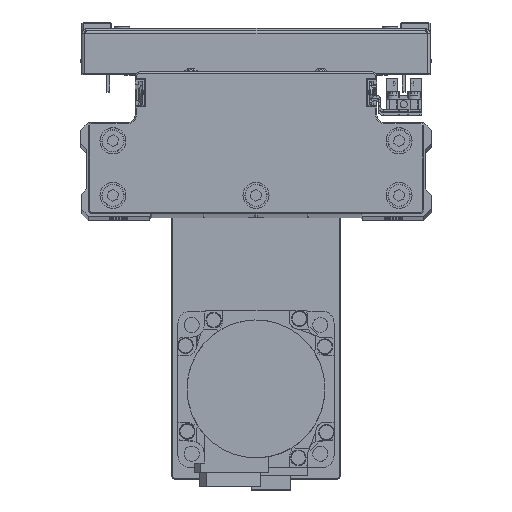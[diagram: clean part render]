
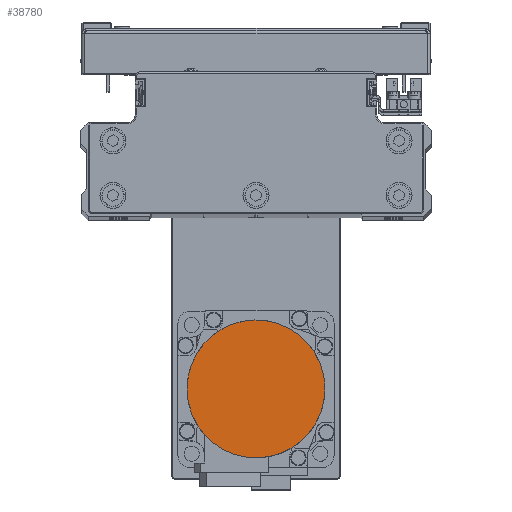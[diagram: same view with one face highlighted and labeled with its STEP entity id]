
A CAD part, top view. The second image highlights one B-rep face of the part: STEP entity #38780.
In plain terms, the highlighted planar face has unit normal (0, 0, 1) as drawn and (0, 0, -1) by its records, which use the part's own axes.
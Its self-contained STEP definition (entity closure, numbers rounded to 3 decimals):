
#378 = CARTESIAN_POINT ( 'NONE',  ( -23.819, -11.744, -109.7 ) ) ;
#614 = CARTESIAN_POINT ( 'NONE',  ( 3.469, -26.329, -109.7 ) ) ;
#822 = CARTESIAN_POINT ( 'NONE',  ( 26.329, -3.469, -109.7 ) ) ;
#1150 = CARTESIAN_POINT ( 'NONE',  ( 26.329, 3.469, -109.7 ) ) ;
#2787 = CARTESIAN_POINT ( 'NONE',  ( 3.469, 26.329, -109.7 ) ) ;
#2998 = CARTESIAN_POINT ( 'NONE',  ( -23.819, 11.744, -109.7 ) ) ;
#3731 = CARTESIAN_POINT ( 'NONE',  ( -26.329, -3.469, -109.7 ) ) ;
#3955 = CARTESIAN_POINT ( 'NONE',  ( -3.469, -26.329, -109.7 ) ) ;
#4185 = CARTESIAN_POINT ( 'NONE',  ( 23.819, -11.744, -109.7 ) ) ;
#4732 = CARTESIAN_POINT ( 'NONE',  ( 11.744, 23.819, -109.7 ) ) ;
#6365 = CARTESIAN_POINT ( 'NONE',  ( -19.965, 17.512, -109.7 ) ) ;
#7300 = CARTESIAN_POINT ( 'NONE',  ( -11.744, -23.819, -109.7 ) ) ;
#7532 = CARTESIAN_POINT ( 'NONE',  ( 19.965, -17.512, -109.7 ) ) ;
#8070 = CARTESIAN_POINT ( 'NONE',  ( 17.512, 19.965, -109.7 ) ) ;
#9719 = CARTESIAN_POINT ( 'NONE',  ( -13.28, 22.998, -109.7 ) ) ;
#10685 = CARTESIAN_POINT ( 'NONE',  ( -17.512, -19.965, -109.7 ) ) ;
#10898 = CARTESIAN_POINT ( 'NONE',  ( 13.28, -22.998, -109.7 ) ) ;
#11458 = CARTESIAN_POINT ( 'NONE',  ( 22.998, 13.28, -109.7 ) ) ;
#11614 = B_SPLINE_CURVE_WITH_KNOTS ( 'NONE', 3,
 ( #20724, #34209, #3731, #17388, #30896, #378, #14038, #27567, #41140, #10685, #24253, #37783, #7300, #20934, #34429, #3955, #17612, #31119, #614, #14267, #27781, #41345, #10898, #24468, #38002, #7532, #21156, #34658, #4185, #17839, #31338, #822, #14482, #28000 ),
 .UNSPECIFIED., .F., .F.,
 ( 4, 2, 2, 2, 2, 2, 2, 2, 2, 2, 2, 2, 2, 2, 2, 2, 4 ),
 ( 0., 0.063, 0.125, 0.188, 0.25, 0.312, 0.375, 0.437, 0.5, 0.562, 0.625, 0.687, 0.75, 0.813, 0.875, 0.938, 1. ),
 .UNSPECIFIED. ) ;
#11828 = CARTESIAN_POINT ( 'NONE',  ( -26.5, 0., -109.7 ) ) ;
#13049 = CARTESIAN_POINT ( 'NONE',  ( 0., 0., -109.7 ) ) ;
#13075 = CARTESIAN_POINT ( 'NONE',  ( -6.871, 25.652, -109.7 ) ) ;
#13300 = CARTESIAN_POINT ( 'NONE',  ( -26.5, 1.734, -109.7 ) ) ;
#14038 = CARTESIAN_POINT ( 'NONE',  ( -22.998, -13.28, -109.7 ) ) ;
#14267 = CARTESIAN_POINT ( 'NONE',  ( 6.871, -25.652, -109.7 ) ) ;
#14482 = CARTESIAN_POINT ( 'NONE',  ( 26.5, -1.734, -109.7 ) ) ;
#14806 = CARTESIAN_POINT ( 'NONE',  ( 25.652, 6.871, -109.7 ) ) ;
#15476 = EDGE_LOOP ( 'NONE', ( #22422, #30277 ) ) ;
#16442 = CARTESIAN_POINT ( 'NONE',  ( 1.734, 26.5, -109.7 ) ) ;
#16656 = CARTESIAN_POINT ( 'NONE',  ( -25.147, 8.539, -109.7 ) ) ;
#17388 = CARTESIAN_POINT ( 'NONE',  ( -25.652, -6.871, -109.7 ) ) ;
#17612 = CARTESIAN_POINT ( 'NONE',  ( -1.734, -26.5, -109.7 ) ) ;
#17839 = CARTESIAN_POINT ( 'NONE',  ( 25.147, -8.539, -109.7 ) ) ;
#18147 = CARTESIAN_POINT ( 'NONE',  ( 26.5, 0., -109.7 ) ) ;
#18380 = CARTESIAN_POINT ( 'NONE',  ( 8.539, 25.147, -109.7 ) ) ;
#19992 = CARTESIAN_POINT ( 'NONE',  ( -21.07, 16.165, -109.7 ) ) ;
#20724 = CARTESIAN_POINT ( 'NONE',  ( -26.5, 0., -109.7 ) ) ;
#20934 = CARTESIAN_POINT ( 'NONE',  ( -8.539, -25.147, -109.7 ) ) ;
#21156 = CARTESIAN_POINT ( 'NONE',  ( 21.07, -16.165, -109.7 ) ) ;
#21689 = CARTESIAN_POINT ( 'NONE',  ( 16.165, 21.07, -109.7 ) ) ;
#22422 = ORIENTED_EDGE ( 'NONE', *, *, #34146, .F. ) ;
#22997 = VERTEX_POINT ( 'NONE', #11828 ) ;
#23308 = CARTESIAN_POINT ( 'NONE',  ( -16.165, 21.07, -109.7 ) ) ;
#24253 = CARTESIAN_POINT ( 'NONE',  ( -16.165, -21.07, -109.7 ) ) ;
#24468 = CARTESIAN_POINT ( 'NONE',  ( 16.165, -21.07, -109.7 ) ) ;
#25012 = CARTESIAN_POINT ( 'NONE',  ( 21.07, 16.165, -109.7 ) ) ;
#26589 = DIRECTION ( 'NONE',  ( 0., 0., 1. ) ) ;
#26617 = CARTESIAN_POINT ( 'NONE',  ( -8.539, 25.147, -109.7 ) ) ;
#26835 = CARTESIAN_POINT ( 'NONE',  ( -26.5, 0., -109.7 ) ) ;
#27567 = CARTESIAN_POINT ( 'NONE',  ( -21.07, -16.165, -109.7 ) ) ;
#27735 = EDGE_CURVE ( 'NONE', #22997, #42346, #11614, .T. ) ;
#27781 = CARTESIAN_POINT ( 'NONE',  ( 8.539, -25.147, -109.7 ) ) ;
#28000 = CARTESIAN_POINT ( 'NONE',  ( 26.5, 0., -109.7 ) ) ;
#28332 = CARTESIAN_POINT ( 'NONE',  ( 25.147, 8.539, -109.7 ) ) ;
#29928 = FACE_OUTER_BOUND ( 'NONE', #15476, .T. ) ;
#29951 = CARTESIAN_POINT ( 'NONE',  ( -1.734, 26.5, -109.7 ) ) ;
#30166 = CARTESIAN_POINT ( 'NONE',  ( -25.652, 6.871, -109.7 ) ) ;
#30277 = ORIENTED_EDGE ( 'NONE', *, *, #27735, .F. ) ;
#30896 = CARTESIAN_POINT ( 'NONE',  ( -25.147, -8.539, -109.7 ) ) ;
#31119 = CARTESIAN_POINT ( 'NONE',  ( 1.734, -26.5, -109.7 ) ) ;
#31338 = CARTESIAN_POINT ( 'NONE',  ( 25.652, -6.871, -109.7 ) ) ;
#31658 = CARTESIAN_POINT ( 'NONE',  ( 26.5, 1.734, -109.7 ) ) ;
#31890 = CARTESIAN_POINT ( 'NONE',  ( 6.871, 25.652, -109.7 ) ) ;
#33487 = CARTESIAN_POINT ( 'NONE',  ( -22.998, 13.28, -109.7 ) ) ;
#34146 = EDGE_CURVE ( 'NONE', #42346, #22997, #43614, .T. ) ;
#34209 = CARTESIAN_POINT ( 'NONE',  ( -26.5, -1.734, -109.7 ) ) ;
#34429 = CARTESIAN_POINT ( 'NONE',  ( -6.871, -25.652, -109.7 ) ) ;
#34606 = AXIS2_PLACEMENT_3D ( 'NONE', #13049, #26589, #40146 ) ;
#34658 = CARTESIAN_POINT ( 'NONE',  ( 22.998, -13.28, -109.7 ) ) ;
#35198 = CARTESIAN_POINT ( 'NONE',  ( 13.28, 22.998, -109.7 ) ) ;
#36826 = CARTESIAN_POINT ( 'NONE',  ( -17.512, 19.965, -109.7 ) ) ;
#37783 = CARTESIAN_POINT ( 'NONE',  ( -13.28, -22.998, -109.7 ) ) ;
#38002 = CARTESIAN_POINT ( 'NONE',  ( 17.512, -19.965, -109.7 ) ) ;
#38536 = CARTESIAN_POINT ( 'NONE',  ( 19.965, 17.512, -109.7 ) ) ;
#38780 = ADVANCED_FACE ( 'NONE', ( #29928 ), #43476, .F. ) ;
#40146 = DIRECTION ( 'NONE',  ( 1., 0., 0. ) ) ;
#40172 = CARTESIAN_POINT ( 'NONE',  ( -11.744, 23.819, -109.7 ) ) ;
#40383 = CARTESIAN_POINT ( 'NONE',  ( 26.5, 0., -109.7 ) ) ;
#41140 = CARTESIAN_POINT ( 'NONE',  ( -19.965, -17.512, -109.7 ) ) ;
#41345 = CARTESIAN_POINT ( 'NONE',  ( 11.744, -23.819, -109.7 ) ) ;
#41896 = CARTESIAN_POINT ( 'NONE',  ( 23.819, 11.744, -109.7 ) ) ;
#42346 = VERTEX_POINT ( 'NONE', #40383 ) ;
#43476 = PLANE ( 'NONE',  #34606 ) ;
#43499 = CARTESIAN_POINT ( 'NONE',  ( -3.469, 26.329, -109.7 ) ) ;
#43614 = B_SPLINE_CURVE_WITH_KNOTS ( 'NONE', 3,
 ( #18147, #31658, #1150, #14806, #28332, #41896, #11458, #25012, #38536, #8070, #21689, #35198, #4732, #18380, #31890, #2787, #16442, #29951, #43499, #13075, #26617, #40172, #9719, #23308, #36826, #6365, #19992, #33487, #2998, #16656, #30166, #43722, #13300, #26835 ),
 .UNSPECIFIED., .F., .F.,
 ( 4, 2, 2, 2, 2, 2, 2, 2, 2, 2, 2, 2, 2, 2, 2, 2, 4 ),
 ( 0., 0.062, 0.125, 0.187, 0.25, 0.312, 0.375, 0.437, 0.5, 0.562, 0.625, 0.687, 0.75, 0.813, 0.875, 0.938, 1. ),
 .UNSPECIFIED. ) ;
#43722 = CARTESIAN_POINT ( 'NONE',  ( -26.329, 3.469, -109.7 ) ) ;
